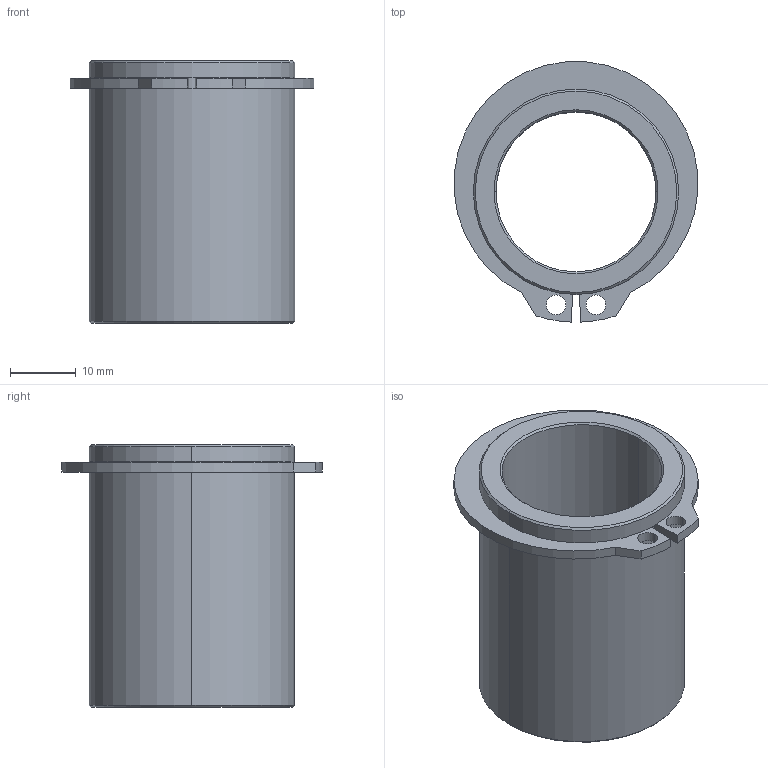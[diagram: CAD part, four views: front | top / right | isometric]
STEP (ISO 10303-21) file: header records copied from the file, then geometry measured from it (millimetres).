
FILE_DESCRIPTION((''),'2;1');
FILE_NAME('C13_024_040.stp','2008-12-17T14:54:44',(''),(''),'Mechanical Desktop 2009','Mechanical Desktop 2009',', , ');
FILE_SCHEMA(('CONFIG_CONTROL_DESIGN'));
Length unit declared in the file: millimetre
Products named in the file (2): Product; blmdl1
Assembly tree (1 placements, depth 2):
  Product
    blmdl1
Bounding box: 37.06 x 39.59 x 40 mm (x, y, z)
Volume: 12535.1 mm3; surface area: 8760 mm2
Topology: 2 solids, 2 shells, 34 faces, 76 edges, 48 vertices
Faces by surface type: cylinder 16, plane 10, cone 8
Entity records: 1075 total; most frequent: DIRECTION 188, CARTESIAN_POINT 160, ORIENTED_EDGE 152, AXIS2_PLACEMENT_3D 76, EDGE_CURVE 76, VERTEX_POINT 48, EDGE_LOOP 42, CIRCLE 40
